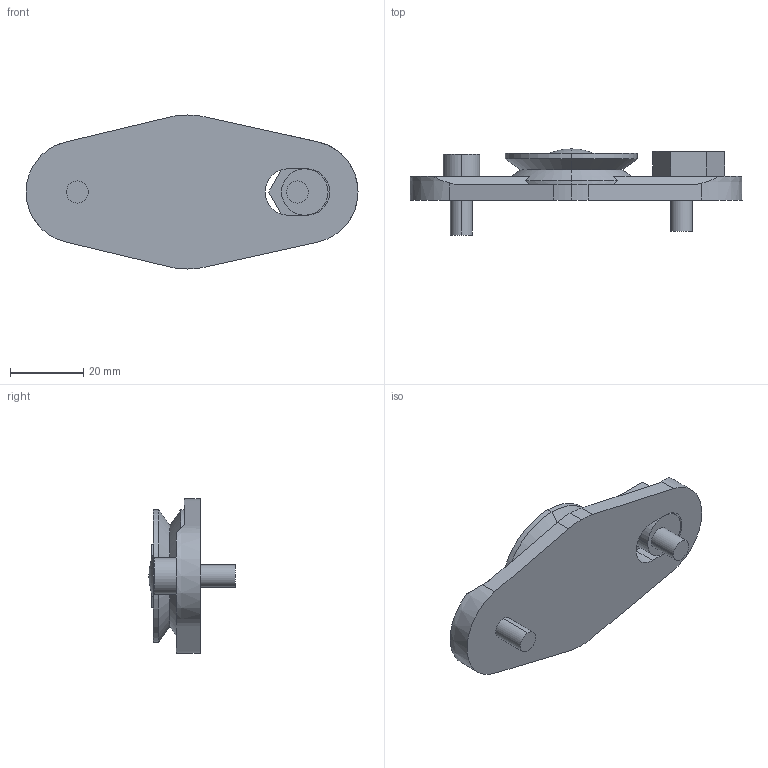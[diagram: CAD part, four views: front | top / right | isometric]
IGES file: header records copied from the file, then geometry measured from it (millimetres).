
Start section: 3D InterOp IGES (v. 2019 1.0.2), Spatial Corp. Copyright (c) 1999-2017.
Global section: file name: GBHJ 360 E.igs; native system: Spatial Corp.; preprocessor: 3D InterOp GENERIC/IGES 3.0; author: Noname; organization: Noname; date: 20220628.170608; units: millimetre
Bounding box: 90.5 x 23.5 x 42 mm (x, y, z)
Surface area: 9983.1 mm2 (no closed solid volume)
Topology: 0 solids, 0 shells, 67 faces, 322 edges, 322 vertices
Faces by surface type: extrusion 39, revolution 28
